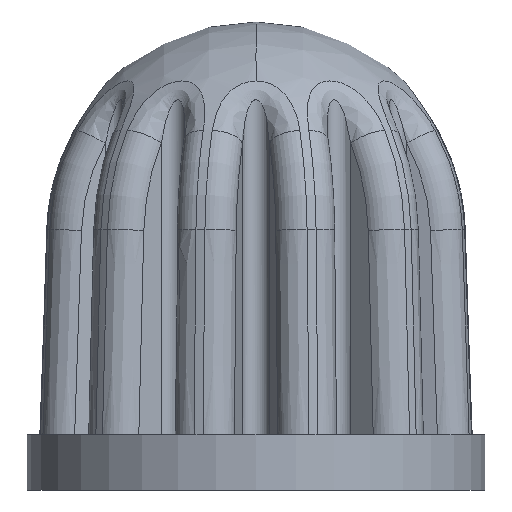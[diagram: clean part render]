
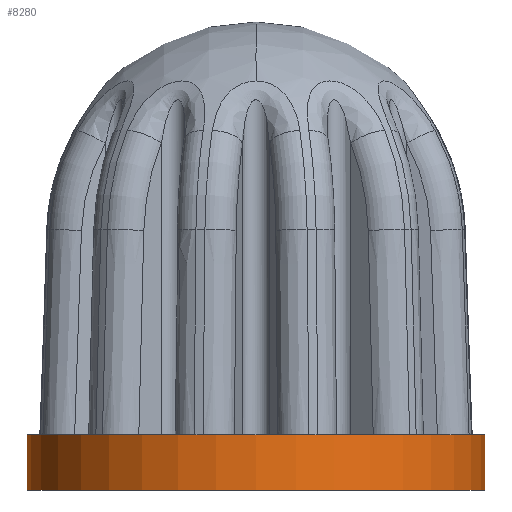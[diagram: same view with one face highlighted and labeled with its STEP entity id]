
A CAD part, front view. The second image highlights one B-rep face of the part: STEP entity #8280.
In plain terms, the highlighted cylindrical face has radius 1.676 mm (diameter 3.353 mm), a partial arc.
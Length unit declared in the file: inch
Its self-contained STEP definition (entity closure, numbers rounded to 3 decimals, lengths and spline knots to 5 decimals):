
#563 = EDGE_LOOP ( 'NONE', ( #7437, #8395, #13727, #12147 ) ) ;
#1319 = VERTEX_POINT ( 'NONE', #13630 ) ;
#1799 = DIRECTION ( 'NONE',  ( 0., 0., 1. ) ) ;
#1964 = VERTEX_POINT ( 'NONE', #7603 ) ;
#3748 = AXIS2_PLACEMENT_3D ( 'NONE', #15583, #5694, #11252 ) ;
#4082 = DIRECTION ( 'NONE',  ( -1., 0., 0. ) ) ;
#4547 = DIRECTION ( 'NONE',  ( 1., 0., 0. ) ) ;
#5333 = DIRECTION ( 'NONE',  ( 0., 0., 1. ) ) ;
#5486 = EDGE_CURVE ( 'NONE', #1319, #10430, #12530, .T. ) ;
#5627 = LINE ( 'NONE', #7146, #9725 ) ;
#5692 = EDGE_CURVE ( 'NONE', #1964, #1319, #8302, .T. ) ;
#5694 = DIRECTION ( 'NONE',  ( 0., 0., -1. ) ) ;
#6692 = CYLINDRICAL_SURFACE ( 'NONE', #15706, 0.066 ) ;
#7146 = CARTESIAN_POINT ( 'NONE',  ( 0.066, 0., -0.016 ) ) ;
#7437 = ORIENTED_EDGE ( 'NONE', *, *, #5486, .F. ) ;
#7603 = CARTESIAN_POINT ( 'NONE',  ( 0.066, 0., -0.016 ) ) ;
#8008 = VECTOR ( 'NONE', #1799, 39.37008 ) ;
#8096 = CIRCLE ( 'NONE', #3748, 0.066 ) ;
#8280 = ADVANCED_FACE ( 'NONE', ( #11400 ), #6692, .T. ) ;
#8302 = CIRCLE ( 'NONE', #11521, 0.066 ) ;
#8387 = CARTESIAN_POINT ( 'NONE',  ( 0., 0., -0.016 ) ) ;
#8395 = ORIENTED_EDGE ( 'NONE', *, *, #5692, .F. ) ;
#9236 = EDGE_CURVE ( 'NONE', #1964, #15812, #5627, .T. ) ;
#9573 = DIRECTION ( 'NONE',  ( 0., 0., -1. ) ) ;
#9725 = VECTOR ( 'NONE', #16615, 39.37008 ) ;
#10430 = VERTEX_POINT ( 'NONE', #15572 ) ;
#11252 = DIRECTION ( 'NONE',  ( -1., 0., 0. ) ) ;
#11400 = FACE_OUTER_BOUND ( 'NONE', #563, .T. ) ;
#11521 = AXIS2_PLACEMENT_3D ( 'NONE', #15092, #9573, #4082 ) ;
#12147 = ORIENTED_EDGE ( 'NONE', *, *, #17506, .T. ) ;
#12530 = LINE ( 'NONE', #15380, #8008 ) ;
#13294 = CARTESIAN_POINT ( 'NONE',  ( 0.066, 0., 0. ) ) ;
#13630 = CARTESIAN_POINT ( 'NONE',  ( -0.066, 0., -0.016 ) ) ;
#13727 = ORIENTED_EDGE ( 'NONE', *, *, #9236, .T. ) ;
#15092 = CARTESIAN_POINT ( 'NONE',  ( 0., 0., -0.016 ) ) ;
#15380 = CARTESIAN_POINT ( 'NONE',  ( -0.066, 0., -0.016 ) ) ;
#15572 = CARTESIAN_POINT ( 'NONE',  ( -0.066, 0., 0. ) ) ;
#15583 = CARTESIAN_POINT ( 'NONE',  ( 0., 0., 0. ) ) ;
#15706 = AXIS2_PLACEMENT_3D ( 'NONE', #8387, #5333, #4547 ) ;
#15812 = VERTEX_POINT ( 'NONE', #13294 ) ;
#16615 = DIRECTION ( 'NONE',  ( 0., 0., 1. ) ) ;
#17506 = EDGE_CURVE ( 'NONE', #15812, #10430, #8096, .T. ) ;
